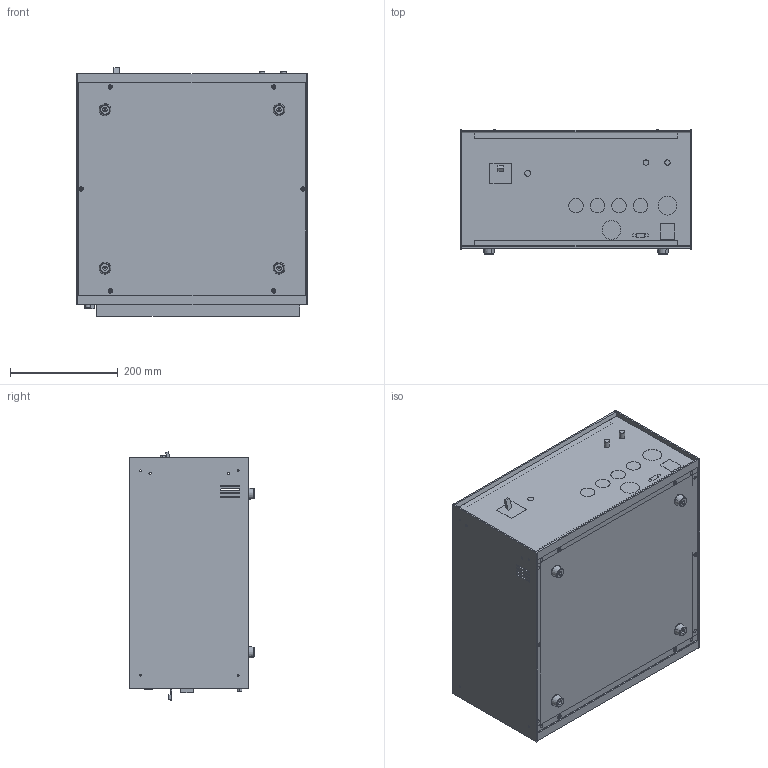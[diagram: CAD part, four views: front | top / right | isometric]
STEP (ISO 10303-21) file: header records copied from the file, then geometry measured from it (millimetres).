
FILE_DESCRIPTION (( 'STEP AP203' ), '1' );
FILE_NAME ('DA1000.STEP', '2024-08-28T05:41:59', ( '' ), ( '' ), 'SwSTEP 2.0', 'SolidWorks 2017', '' );
FILE_SCHEMA (( 'CONFIG_CONTROL_DESIGN' ));
Length unit declared in the file: millimetre
Products named in the file (5): Part1^DA1000; Part1267^DA1000; Part1266^DA1000; Copy of _X2_52365FA1_X0_BOX__X2_521D5F6272B6_X0_-prt0^DA1000; DA1000
Assembly tree (5 placements, depth 2):
  DA1000
    Copy of _X2_52365FA1_X0_BOX__X2_521D5F6272B6_X0_-prt0^DA1000
    Part1266^DA1000
    Part1267^DA1000
    Part1^DA1000  x2
Bounding box: 430 x 231.5 x 461.87 mm (x, y, z)
Volume: 1470739.9 mm3; surface area: 1560849.4 mm2
Topology: 5 solids, 5 shells, 1223 faces, 3283 edges, 2156 vertices
Faces by surface type: plane 624, cylinder 470, bspline 39, cone 36, torus 30, sphere 24
Entity records: 40033 total; most frequent: CARTESIAN_POINT 7418, DIRECTION 6878, ORIENTED_EDGE 6554, EDGE_CURVE 3277, AXIS2_PLACEMENT_3D 2461, VERTEX_POINT 2152, LINE 1956, VECTOR 1956
